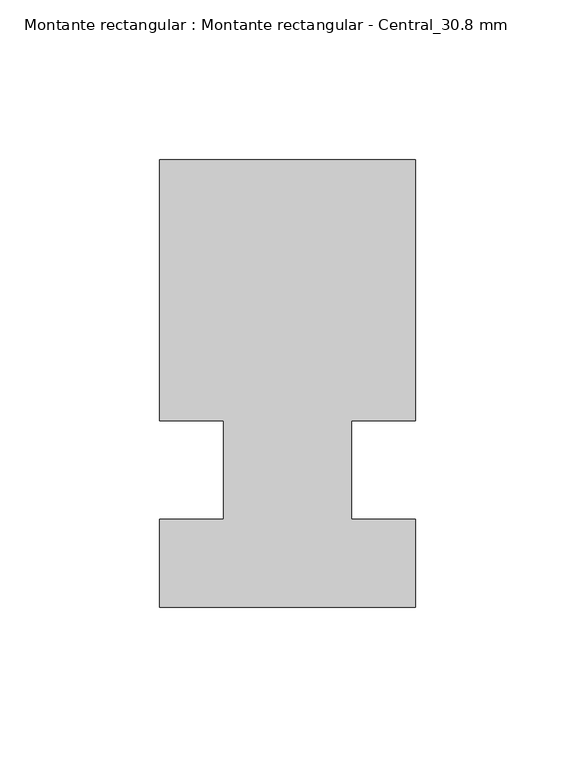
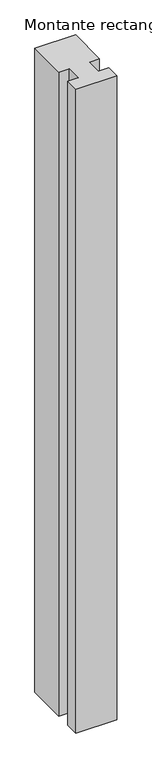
"""IFC4 building model written with IfcOpenShell, lengths in millimetres: member geometry, Montante rectangular : Montante rectangular - Central_30.8 mm."""

from ifc_helpers import new_model, si_unit, frame, origin, place, context, project, spatial, polyline, outline, extrude, source, transform, mapped, element, save


def montante_rectangular_montante_rectangular_central_30_8_mm_d86f33cf(model_context):
    return source(origin(), model_context, "Body", "SweptSolid", [
        extrude(outline(polyline([(-40.0, 80.0), (40.0, 80.0), (40.0, -1.6), (20.0, -1.6), (20.0, -32.4), (40.0, -32.4), (40.0, -60.0), (-40.0, -60.0), (-40.0, -32.4), (-20.0, -32.4), (-20.0, -1.6), (-40.0, -1.6), (-40.0, 80.0)])), frame((0.0, 0.0, -1340.0), z_axis=(0.0, 0.0, 1.0), x_axis=(1.0, 0.0, 0.0)), (0.0, 0.0, 1.0), 1340.0),
    ])


if __name__ == "__main__":
    model = new_model("IFC4")
    model_context = context("Model", 3, world=origin())
    ifc_project = project(units=[si_unit("LENGTHUNIT", "METRE", prefix="MILLI")], contexts=[model_context])
    site = spatial("IfcSite", under=ifc_project)
    building = spatial("IfcBuilding", under=site)
    placement = place(None, origin())
    montante_rectangular_montante_rectangular_central_30_8_mm_shape = montante_rectangular_montante_rectangular_central_30_8_mm_d86f33cf(model_context)
    element("IfcMember", 1, ObjectType="Montante rectangular : Montante rectangular - Central_30.8 mm", at=placement, inside=building, context=model_context, shape_type="MappedRepresentation", body=[
        mapped(montante_rectangular_montante_rectangular_central_30_8_mm_shape, transform((0.0, 0.0, 0.0), x_axis=(1.0, 0.0, 0.0), y_axis=(0.0, 1.0, 0.0), z_axis=(0.0, 0.0, 1.0))),
    ])
    save(model, "model.ifc")
